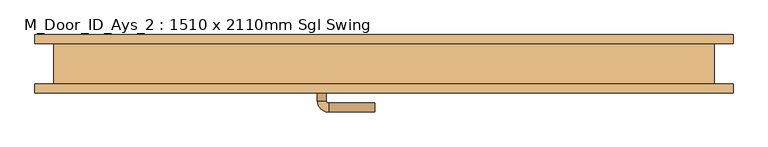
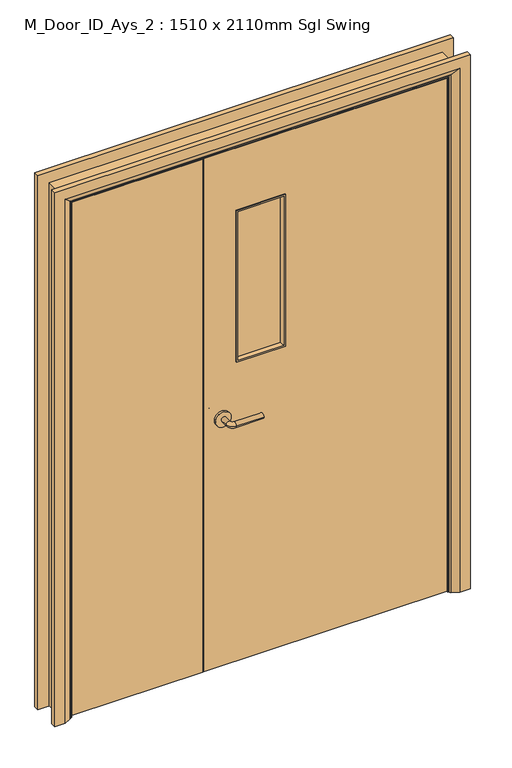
"""IFC4 building model written with IfcOpenShell, lengths in millimetres: door geometry, M_Door_ID_Ays_2 : 1510 x 2110mm Sgl Swing."""

from ifc_helpers import new_model, si_unit, point, frame, frame_2d, origin, place, context, project, spatial, polyline, circle_curve, ellipse_curve, trimmed, segment, composite_curve, outline, extrude, faceted_brep, source, transform, mapped, element, save
from ifc_brep_helpers import plane_surface, cylinder_surface, revolved_surface, advanced_brep


def m_door_id_ays_2_1510_x_2110mm_sgl_swing_ff807263(model_context):
    return source(origin(), model_context, "Body", "SolidModel", [
        advanced_brep(
        [(88.5, -6.0, 1000.0), (108.5, -6.0, 1000.0), (88.5, 24.0, 1000.0), (108.5, 24.0, 1000.0), (113.5, 29.0, 1000.0), (113.5, 49.0, 1000.0), (218.5, 49.0, 1000.0), (218.5, 29.0, 1000.0)],
        [
            (0, 1, circle_curve(frame((98.5, -6.0, 1000.0), z_axis=(0.0, -1.0, 0.0), x_axis=(1.0, 0.0, 0.0)), 10.0)),
            (1, 0, circle_curve(frame((98.5, -6.0, 1000.0), z_axis=(0.0, -1.0, 0.0), x_axis=(1.0, 0.0, 0.0)), 10.0)),
            (0, 2),
            (2, 3, circle_curve(frame((98.5, 24.0, 1000.0), z_axis=(0.0, -1.0, 0.0), x_axis=(1.0, 0.0, 0.0)), 10.0)),
            (3, 1),
            (3, 2, circle_curve(frame((98.5, 24.0, 1000.0), z_axis=(0.0, -1.0, 0.0), x_axis=(1.0, 0.0, 0.0)), 10.0)),
            (4, 3, circle_curve(frame((113.5, 24.0, 1000.0), z_axis=(0.0, 0.0, 1.0), x_axis=(-1.0, 0.0, 0.0)), 5.0)),
            (2, 5, circle_curve(frame((113.5, 24.0, 1000.0), z_axis=(0.0, 0.0, -1.0), x_axis=(-1.0, 0.0, 0.0)), 25.0)),
            (5, 4, circle_curve(frame((113.5, 39.0, 1000.0), z_axis=(-1.0, 0.0, 0.0), x_axis=(0.0, -1.0, 0.0)), 10.0)),
            (4, 5, circle_curve(frame((113.5, 39.0, 1000.0), z_axis=(-1.0, 0.0, 0.0), x_axis=(0.0, -1.0, 0.0)), 10.0)),
            (6, 7, circle_curve(frame((218.5, 39.0, 1000.0), z_axis=(1.0, 0.0, 0.0), x_axis=(0.0, -1.0, 0.0)), 10.0)),
            (7, 6, circle_curve(frame((218.5, 39.0, 1000.0), z_axis=(1.0, 0.0, 0.0), x_axis=(0.0, -1.0, 0.0)), 10.0)),
            (5, 6),
            (7, 4),
        ],
        [
            plane_surface(frame((98.5, -6.0, 1000.0), z_axis=(0.0, -1.0, 0.0), x_axis=(0.0, 0.0, 1.0))),
            cylinder_surface(frame((98.5, -6.0, 1000.0), z_axis=(0.0, -1.0, 0.0), x_axis=(1.0, 0.0, 0.0)), 10.0),
            revolved_surface(trimmed(ellipse_curve(frame((98.5, 24.0, 1000.0), z_axis=(0.0, -1.0, 0.0), x_axis=(1.0, 0.0, 0.0)), 10.0, 10.0), [point((88.5, 24.0, 1000.0))], [point((108.5, 24.0, 1000.0))], True, "CARTESIAN"), (113.5, 24.0, 1000.0), (0.0, 0.0, -1.0)),
            revolved_surface(trimmed(ellipse_curve(frame((98.5, 24.0, 1000.0), z_axis=(0.0, -1.0, 0.0), x_axis=(1.0, 0.0, 0.0)), 10.0, 10.0), [point((108.5, 24.0, 1000.0))], [point((88.5, 24.0, 1000.0))], True, "CARTESIAN"), (113.5, 24.0, 1000.0), (0.0, 0.0, -1.0)),
            plane_surface(frame((218.5, 39.0, 1000.0), z_axis=(1.0, 0.0, 0.0), x_axis=(0.0, 0.0, 1.0))),
            cylinder_surface(frame((113.5, 39.0, 1000.0), z_axis=(-1.0, 0.0, 0.0), x_axis=(0.0, -1.0, 0.0)), 10.0),
        ],
        [
            (0, [[1, 2]]),
            (1, [[-1, 3, 4, 5]]),
            (1, [[-2, -5, 6, -3]]),
            (2, [[7, -4, 8, 9]]),
            (3, [[-8, -6, -7, 10]]),
            (4, [[11, 12]]),
            (5, [[-9, 13, -12, 14]]),
            (5, [[-10, -14, -11, -13]]),
        ],
    ),
        extrude(outline(composite_curve([segment(trimmed(circle_curve(frame_2d((1000.0, 96.0)), 30.0), [point((1000.0, 66.0))], [point((1000.0, 126.0))], False, "CARTESIAN"), True, "CONTINUOUS"), segment(trimmed(circle_curve(frame_2d((1000.0, 96.0)), 30.0), [point((1000.0, 126.0))], [point((1000.0, 66.0))], False, "CARTESIAN"), True, "CONTINUOUS")], self_intersect=False)), frame((0.0, -14.0, 0.0), z_axis=(0.0, 1.0, 0.0), x_axis=(0.0, 0.0, 1.0)), (0.0, 0.0, 1.0), 8.0),
        advanced_brep(
        [(88.5, -54.0, 1000.0), (108.5, -54.0, 1000.0), (108.5, -84.0, 1000.0), (88.5, -84.0, 1000.0), (113.5, -89.0, 1000.0), (113.5, -109.0, 1000.0), (218.5, -109.0, 1000.0), (218.5, -89.0, 1000.0)],
        [
            (0, 1, circle_curve(frame((98.5, -54.0, 1000.0), z_axis=(0.0, 1.0, 0.0), x_axis=(1.0, 0.0, 0.0)), 10.0)),
            (1, 0, circle_curve(frame((98.5, -54.0, 1000.0), z_axis=(0.0, 1.0, 0.0), x_axis=(1.0, 0.0, 0.0)), 10.0)),
            (1, 2),
            (2, 3, circle_curve(frame((98.5, -84.0, 1000.0), z_axis=(0.0, 1.0, 0.0), x_axis=(1.0, 0.0, 0.0)), 10.0)),
            (3, 0),
            (3, 2, circle_curve(frame((98.5, -84.0, 1000.0), z_axis=(0.0, 1.0, 0.0), x_axis=(1.0, 0.0, 0.0)), 10.0)),
            (4, 5, circle_curve(frame((113.5, -99.0, 1000.0), z_axis=(-1.0, 0.0, 0.0), x_axis=(0.0, 1.0, 0.0)), 10.0)),
            (5, 3, circle_curve(frame((113.5, -84.0, 1000.0), z_axis=(0.0, 0.0, -1.0), x_axis=(-1.0, 0.0, 0.0)), 25.0)),
            (2, 4, circle_curve(frame((113.5, -84.0, 1000.0), z_axis=(0.0, 0.0, 1.0), x_axis=(-1.0, 0.0, 0.0)), 5.0)),
            (5, 4, circle_curve(frame((113.5, -99.0, 1000.0), z_axis=(-1.0, 0.0, 0.0), x_axis=(0.0, 1.0, 0.0)), 10.0)),
            (6, 7, circle_curve(frame((218.5, -99.0, 1000.0), z_axis=(1.0, 0.0, 0.0), x_axis=(0.0, 1.0, 0.0)), 10.0)),
            (7, 6, circle_curve(frame((218.5, -99.0, 1000.0), z_axis=(1.0, 0.0, 0.0), x_axis=(0.0, 1.0, 0.0)), 10.0)),
            (4, 7),
            (6, 5),
        ],
        [
            plane_surface(frame((98.5, -54.0, 1000.0), z_axis=(0.0, 1.0, 0.0), x_axis=(0.0, 0.0, 1.0))),
            cylinder_surface(frame((98.5, -54.0, 1000.0), z_axis=(0.0, 1.0, 0.0), x_axis=(1.0, 0.0, 0.0)), 10.0),
            revolved_surface(trimmed(ellipse_curve(frame((98.5, -84.0, 1000.0), z_axis=(0.0, -1.0, 0.0), x_axis=(1.0, 0.0, 0.0)), 10.0, 10.0), [point((88.5, -84.0, 1000.0))], [point((108.5, -84.0, 1000.0))], True, "CARTESIAN"), (113.5, -84.0, 1000.0), (0.0, 0.0, -1.0)),
            revolved_surface(trimmed(ellipse_curve(frame((98.5, -84.0, 1000.0), z_axis=(0.0, -1.0, 0.0), x_axis=(1.0, 0.0, 0.0)), 10.0, 10.0), [point((108.5, -84.0, 1000.0))], [point((88.5, -84.0, 1000.0))], True, "CARTESIAN"), (113.5, -84.0, 1000.0), (0.0, 0.0, -1.0)),
            plane_surface(frame((218.5, -99.0, 1000.0), z_axis=(1.0, 0.0, 0.0), x_axis=(0.0, 0.0, 1.0))),
            cylinder_surface(frame((113.5, -99.0, 1000.0), z_axis=(-1.0, 0.0, 0.0), x_axis=(0.0, 1.0, 0.0)), 10.0),
        ],
        [
            (0, [[1, 2]]),
            (1, [[3, 4, 5, -2]]),
            (1, [[-5, 6, -3, -1]]),
            (2, [[7, 8, -4, 9]]),
            (3, [[10, -9, -6, -8]]),
            (4, [[11, 12]]),
            (5, [[13, -11, 14, -7]]),
            (5, [[-14, -12, -13, -10]]),
        ],
    ),
        extrude(outline(composite_curve([segment(trimmed(circle_curve(frame_2d((1000.0, 96.0)), 30.0), [point((1000.0, 66.0))], [point((1000.0, 126.0))], False, "CARTESIAN"), True, "CONTINUOUS"), segment(trimmed(circle_curve(frame_2d((1000.0, 96.0)), 30.0), [point((1000.0, 126.0))], [point((1000.0, 66.0))], False, "CARTESIAN"), True, "CONTINUOUS")], self_intersect=False)), frame((0.0, -54.0, 0.0), z_axis=(0.0, 1.0, 0.0), x_axis=(0.0, 0.0, 1.0)), (0.0, 0.0, 1.0), 8.0),
        extrude(outline(polyline([(2102.0, -508.0), (0.0, -508.0), (0.0, -476.0), (2070.0, -476.0), (2070.0, 954.0), (0.0, 954.0), (0.0, 986.0), (2102.0, 986.0), (2102.0, -508.0)])), frame((0.0, -46.0, 0.0), z_axis=(0.0, 1.0, 0.0), x_axis=(0.0, 0.0, 1.0)), (0.0, 0.0, 1.0), 92.0),
        faceted_brep([(-457.0, -11.0, 0.0), (-476.0, -11.0, 0.0), (-476.0, 21.0, 0.0), (-457.0, 21.0, 0.0), (-457.0, 21.0, 2051.0), (-457.0, -11.0, 2051.0), (-476.0, 21.0, 2070.0), (-476.0, -11.0, 2070.0), (935.0, -11.0, 0.0), (935.0, 21.0, 0.0), (954.0, 21.0, 0.0), (954.0, -11.0, 0.0), (935.0, -11.0, 2051.0), (954.0, -11.0, 2070.0), (954.0, 21.0, 2070.0), (935.0, 21.0, 2051.0)], [[[0, 1, 2, 3]], [[3, 4, 5, 0]], [[2, 6, 4, 3]], [[1, 7, 6, 2]], [[0, 5, 7, 1]], [[8, 9, 10, 11]], [[12, 8, 11, 13]], [[13, 11, 10, 14]], [[14, 10, 9, 15]], [[15, 9, 8, 12]], [[4, 15, 12, 5]], [[6, 14, 15, 4]], [[7, 13, 14, 6]], [[5, 12, 13, 7]]]),
        advanced_brep(
        [(1029.0, -66.0, 0.0), (989.0, -66.0, 0.0), (963.0, -52.0, 0.0), (959.0, -46.0, 0.0), (1029.0, -46.0, 0.0), (1029.0, -46.0, 2145.0), (1029.0, -66.0, 2145.0), (959.0, -46.0, 2075.0), (-481.0, -46.0, 2075.0), (-481.0, -46.0, 0.0), (-551.0, -46.0, 0.0), (-551.0, -46.0, 2145.0), (963.0, -52.0, 2079.0), (989.0, -66.0, 2105.0), (-551.0, -66.0, 2145.0), (-551.0, -66.0, 0.0), (-511.0, -66.0, 0.0), (-511.0, -66.0, 2105.0), (-485.0, -52.0, 0.0), (-485.0, -52.0, 2079.0)],
        [
            (0, 1),
            (1, 2),
            (2, 3, circle_curve(frame((967.0, -45.0, 0.0), z_axis=(0.0, 0.0, -1.0), x_axis=(1.0, 0.0, 0.0)), 8.0622577)),
            (3, 4),
            (4, 0),
            (4, 5),
            (5, 6),
            (6, 0),
            (3, 7),
            (7, 8),
            (8, 9),
            (9, 10),
            (10, 11),
            (11, 5),
            (2, 12),
            (12, 7, ellipse_curve(frame((967.0, -45.0, 2083.0), z_axis=(0.7071067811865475, 0.0, -0.7071067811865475), x_axis=(-0.7071067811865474, 0.0, -0.7071067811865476)), 11.4017543, 8.0622577)),
            (1, 13),
            (13, 12),
            (6, 14),
            (14, 15),
            (15, 16),
            (16, 17),
            (17, 13),
            (10, 15),
            (14, 11),
            (9, 18, circle_curve(frame((-489.0, -45.0, 0.0), z_axis=(0.0, 0.0, -1.0), x_axis=(-1.0, 0.0, 0.0)), 8.0622577)),
            (18, 16),
            (19, 18),
            (8, 19, ellipse_curve(frame((-489.0, -45.0, 2083.0), z_axis=(-0.7071067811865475, 0.0, -0.7071067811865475), x_axis=(-0.7071067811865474, 0.0, 0.7071067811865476)), 11.4017543, 8.0622577)),
            (19, 17),
            (12, 19),
        ],
        [
            plane_surface(frame((959.0, -46.0, 0.0), z_axis=(0.0, 0.0, -1.0), x_axis=(0.0, 1.0, 0.0))),
            plane_surface(frame((1029.0, -66.0, 0.0), z_axis=(1.0, 0.0, 0.0), x_axis=(0.0, 0.0, 1.0))),
            plane_surface(frame((1029.0, -46.0, 0.0), z_axis=(0.0, 1.0, 0.0), x_axis=(0.0, 0.0, 1.0))),
            cylinder_surface(frame((967.0, -45.0, 0.0), z_axis=(0.0, 0.0, -1.0), x_axis=(1.0, 0.0, 0.0)), 8.0622577),
            plane_surface(frame((963.0, -52.0, 0.0), z_axis=(-0.4740998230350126, -0.8804710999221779, 0.0), x_axis=(0.0, 0.0, 1.0))),
            plane_surface(frame((989.0, -66.0, 0.0), z_axis=(0.0, -1.0, 0.0), x_axis=(0.0, 0.0, 1.0))),
            plane_surface(frame((-551.0, -66.0, 2145.0), z_axis=(-1.0, 0.0, 0.0), x_axis=(0.0, 0.0, -1.0))),
            plane_surface(frame((-481.0, -46.0, 0.0), z_axis=(0.0, 0.0, -1.0), x_axis=(0.0, 1.0, 0.0))),
            cylinder_surface(frame((-489.0, -45.0, 2075.0), z_axis=(0.0, 0.0, 1.0), x_axis=(-1.0, 0.0, 0.0)), 8.0622577),
            plane_surface(frame((-485.0, -52.0, 2079.0), z_axis=(0.4740998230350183, -0.8804710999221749, 0.0), x_axis=(0.0, 0.0, -1.0))),
            plane_surface(frame((1029.0, -66.0, 2145.0), z_axis=(0.0, 0.0, 1.0), x_axis=(-1.0, 0.0, 0.0))),
            cylinder_surface(frame((959.0, -45.0, 2083.0), z_axis=(1.0, 0.0, 0.0), x_axis=(0.0, 0.0, 1.0)), 8.0622577),
            plane_surface(frame((963.0, -52.0, 2079.0), z_axis=(0.0, -0.8804710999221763, -0.4740998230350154), x_axis=(-1.0, 0.0, 0.0))),
        ],
        [
            (0, [[1, 2, 3, 4, 5]]),
            (1, [[6, 7, 8, -5]]),
            (2, [[9, 10, 11, 12, 13, 14, -6, -4]]),
            (3, [[15, 16, -9, -3]]),
            (4, [[17, 18, -15, -2]]),
            (5, [[-8, 19, 20, 21, 22, 23, -17, -1]]),
            (6, [[-13, 24, -20, 25]]),
            (7, [[-24, -12, 26, 27, -21]]),
            (8, [[28, -26, -11, 29]]),
            (9, [[-22, -27, -28, 30]]),
            (10, [[-14, -25, -19, -7]]),
            (11, [[31, -29, -10, -16]]),
            (12, [[-23, -30, -31, -18]]),
        ],
    ),
        advanced_brep(
        [(-551.0, 66.0, 0.0), (-511.0, 66.0, 0.0), (-485.0, 52.0, 0.0), (-481.0, 46.0, 0.0), (-551.0, 46.0, 0.0), (-551.0, 46.0, 2145.0), (-551.0, 66.0, 2145.0), (-481.0, 46.0, 2075.0), (959.0, 46.0, 2075.0), (959.0, 46.0, 0.0), (1029.0, 46.0, 0.0), (1029.0, 46.0, 2145.0), (-485.0, 52.0, 2079.0), (-511.0, 66.0, 2105.0), (1029.0, 66.0, 2145.0), (1029.0, 66.0, 0.0), (989.0, 66.0, 0.0), (989.0, 66.0, 2105.0), (963.0, 52.0, 0.0), (963.0, 52.0, 2079.0)],
        [
            (0, 1),
            (1, 2),
            (2, 3, circle_curve(frame((-489.0, 45.0, 0.0), z_axis=(0.0, 0.0, -1.0), x_axis=(-1.0, 0.0, 0.0)), 8.0622577)),
            (3, 4),
            (4, 0),
            (4, 5),
            (5, 6),
            (6, 0),
            (3, 7),
            (7, 8),
            (8, 9),
            (9, 10),
            (10, 11),
            (11, 5),
            (2, 12),
            (12, 7, ellipse_curve(frame((-489.0, 45.0, 2083.0), z_axis=(-0.7071067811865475, 0.0, -0.7071067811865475), x_axis=(0.7071067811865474, 0.0, -0.7071067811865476)), 11.4017543, 8.0622577)),
            (1, 13),
            (13, 12),
            (6, 14),
            (14, 15),
            (15, 16),
            (16, 17),
            (17, 13),
            (10, 15),
            (14, 11),
            (9, 18, circle_curve(frame((967.0, 45.0, 0.0), z_axis=(0.0, 0.0, -1.0), x_axis=(1.0, 0.0, 0.0)), 8.0622577)),
            (18, 16),
            (19, 18),
            (8, 19, ellipse_curve(frame((967.0, 45.0, 2083.0), z_axis=(0.7071067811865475, 0.0, -0.7071067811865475), x_axis=(0.7071067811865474, 0.0, 0.7071067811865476)), 11.4017543, 8.0622577)),
            (19, 17),
            (12, 19),
        ],
        [
            plane_surface(frame((-481.0, 46.0, 0.0), z_axis=(0.0, 0.0, -1.0), x_axis=(0.0, 1.0, 0.0))),
            plane_surface(frame((-551.0, 66.0, 0.0), z_axis=(-1.0, 0.0, 0.0), x_axis=(0.0, 0.0, 1.0))),
            plane_surface(frame((-551.0, 46.0, 0.0), z_axis=(0.0, -1.0, 0.0), x_axis=(0.0, 0.0, 1.0))),
            cylinder_surface(frame((-489.0, 45.0, 0.0), z_axis=(0.0, 0.0, -1.0), x_axis=(-1.0, 0.0, 0.0)), 8.0622577),
            plane_surface(frame((-485.0, 52.0, 0.0), z_axis=(0.4740998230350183, 0.8804710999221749, 0.0), x_axis=(0.0, 0.0, 1.0))),
            plane_surface(frame((-511.0, 66.0, 0.0), z_axis=(0.0, 1.0, 0.0), x_axis=(0.0, 0.0, 1.0))),
            plane_surface(frame((1029.0, 66.0, 2145.0), z_axis=(1.0, 0.0, 0.0), x_axis=(0.0, 0.0, -1.0))),
            plane_surface(frame((959.0, 46.0, 0.0), z_axis=(0.0, 0.0, -1.0), x_axis=(0.0, 1.0, 0.0))),
            cylinder_surface(frame((967.0, 45.0, 2075.0), z_axis=(0.0, 0.0, 1.0), x_axis=(1.0, 0.0, 0.0)), 8.0622577),
            plane_surface(frame((963.0, 52.0, 2079.0), z_axis=(-0.4740998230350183, 0.8804710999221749, 0.0), x_axis=(0.0, 0.0, -1.0))),
            plane_surface(frame((-551.0, 66.0, 2145.0), z_axis=(0.0, 0.0, 1.0), x_axis=(1.0, 0.0, 0.0))),
            cylinder_surface(frame((-481.0, 45.0, 2083.0), z_axis=(-1.0, 0.0, 0.0), x_axis=(0.0, 0.0, 1.0)), 8.0622577),
            plane_surface(frame((-485.0, 52.0, 2079.0), z_axis=(0.0, 0.8804710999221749, -0.4740998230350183), x_axis=(1.0, 0.0, 0.0))),
        ],
        [
            (0, [[1, 2, 3, 4, 5]]),
            (1, [[6, 7, 8, -5]]),
            (2, [[9, 10, 11, 12, 13, 14, -6, -4]]),
            (3, [[15, 16, -9, -3]]),
            (4, [[17, 18, -15, -2]]),
            (5, [[-8, 19, 20, 21, 22, 23, -17, -1]]),
            (6, [[-13, 24, -20, 25]]),
            (7, [[-24, -12, 26, 27, -21]]),
            (8, [[28, -26, -11, 29]]),
            (9, [[-22, -27, -28, 30]]),
            (10, [[-14, -25, -19, -7]]),
            (11, [[31, -29, -10, -16]]),
            (12, [[-23, -30, -31, -18]]),
        ],
    ),
        extrude(outline(polyline([(5.753223, 951.0), (2067.0, 951.0), (2067.0, 25.0), (5.753223, 25.0), (5.753223, 951.0)]), holes=[polyline([(1817.0, 150.0), (1817.0, 335.0), (1207.0, 335.0), (1207.0, 150.0), (1817.0, 150.0)])]), frame((0.0, -46.0, 0.0), z_axis=(0.0, 1.0, 0.0), x_axis=(0.0, 0.0, 1.0)), (0.0, 0.0, 1.0), 32.0),
        extrude(outline(polyline([(22.0, -14.0), (22.0, -46.0), (-473.0, -46.0), (-473.0, -14.0), (22.0, -14.0)])), frame((0.0, 0.0, 5.753223), z_axis=(0.0, 0.0, 1.0), x_axis=(1.0, 0.0, 0.0)), (0.0, 0.0, 1.0), 2061.246777),
        extrude(outline(polyline([(335.0, -24.0), (335.0, -36.0), (150.0, -36.0), (150.0, -24.0), (335.0, -24.0)])), frame((0.0, 0.0, 1207.0), z_axis=(0.0, 0.0, 1.0), x_axis=(1.0, 0.0, 0.0)), (0.0, 0.0, 1.0), 610.0),
        faceted_brep([(150.0, -49.0, 1207.0), (150.0, -49.0, 1817.0), (150.0, -36.0, 1817.0), (150.0, -36.0, 1207.0), (162.0, -36.0, 1219.0), (162.0, -36.0, 1805.0), (156.0, -49.0, 1811.0), (156.0, -49.0, 1213.0), (335.0, -49.0, 1817.0), (335.0, -36.0, 1817.0), (323.0, -36.0, 1805.0), (329.0, -49.0, 1811.0), (335.0, -49.0, 1207.0), (335.0, -36.0, 1207.0), (323.0, -36.0, 1219.0), (329.0, -49.0, 1213.0)], [[[0, 1, 2, 3]], [[4, 5, 6, 7]], [[1, 8, 9, 2]], [[5, 10, 11, 6]], [[8, 12, 13, 9]], [[10, 14, 15, 11]], [[3, 2, 9, 13], [5, 4, 14, 10]], [[12, 0, 3, 13]], [[1, 0, 12, 8], [7, 6, 11, 15]], [[14, 4, 7, 15]]]),
        faceted_brep([(335.0, -11.0, 1207.0), (335.0, -11.0, 1817.0), (335.0, -24.0, 1817.0), (335.0, -24.0, 1207.0), (323.0, -24.0, 1219.0), (323.0, -24.0, 1805.0), (329.0, -11.0, 1811.0), (329.0, -11.0, 1213.0), (150.0, -11.0, 1817.0), (150.0, -24.0, 1817.0), (162.0, -24.0, 1805.0), (156.0, -11.0, 1811.0), (150.0, -11.0, 1207.0), (150.0, -24.0, 1207.0), (162.0, -24.0, 1219.0), (156.0, -11.0, 1213.0)], [[[0, 1, 2, 3]], [[4, 5, 6, 7]], [[1, 8, 9, 2]], [[5, 10, 11, 6]], [[8, 12, 13, 9]], [[10, 14, 15, 11]], [[3, 2, 9, 13], [5, 4, 14, 10]], [[12, 0, 3, 13]], [[1, 0, 12, 8], [7, 6, 11, 15]], [[14, 4, 7, 15]]]),
    ])


if __name__ == "__main__":
    model = new_model("IFC4")
    model_context = context("Model", 3, world=origin())
    ifc_project = project(units=[si_unit("LENGTHUNIT", "METRE", prefix="MILLI")], contexts=[model_context])
    site = spatial("IfcSite", under=ifc_project)
    building = spatial("IfcBuilding", under=site)
    placement = place(None, origin())
    m_door_id_ays_2_1510_x_2110mm_sgl_swing_shape = m_door_id_ays_2_1510_x_2110mm_sgl_swing_ff807263(model_context)
    element("IfcDoor", 1, ObjectType="M_Door_ID_Ays_2 : 1510 x 2110mm Sgl Swing", at=placement, inside=building, context=model_context, shape_type="MappedRepresentation", body=[
        mapped(m_door_id_ays_2_1510_x_2110mm_sgl_swing_shape, transform((0.0, 0.0, 0.0), x_axis=(1.0, 0.0, 0.0), y_axis=(0.0, 1.0, 0.0), z_axis=(0.0, 0.0, 1.0))),
    ])
    save(model, "model.ifc")
